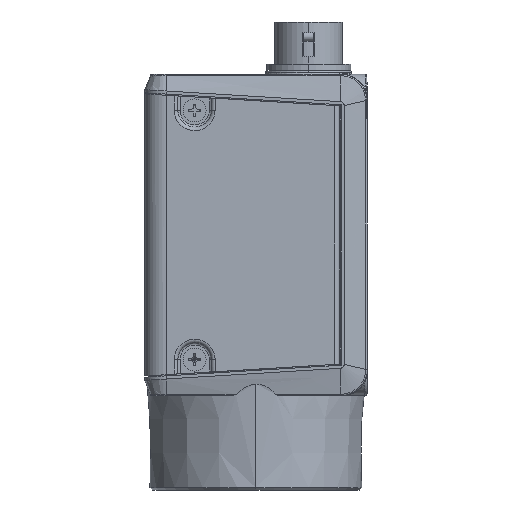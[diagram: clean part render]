
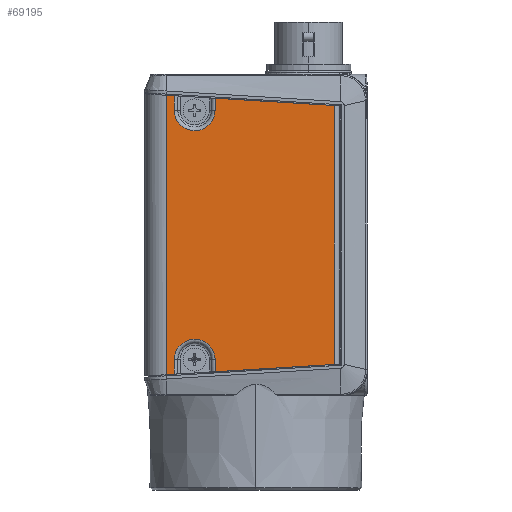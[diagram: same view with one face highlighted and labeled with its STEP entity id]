
A CAD part, left-side view. The second image highlights one B-rep face of the part: STEP entity #69195.
In plain terms, the highlighted planar face has unit normal (-1, 0, 0).
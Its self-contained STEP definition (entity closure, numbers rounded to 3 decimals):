
#13173=CARTESIAN_POINT('',(-14.5,-10.263,
13.575));
#13178=DIRECTION('',(0.,0.,1.));
#13179=VECTOR('',#13178,33.851);
#13180=CARTESIAN_POINT('',(-14.5,-10.263,
13.575));
#13181=LINE('',#13180,#13179);
#13209=CARTESIAN_POINT('',(-14.5,5.33,48.379));
#13320=DIRECTION('',(0.,0.,-1.));
#13321=VECTOR('',#13320,1.579);
#13322=CARTESIAN_POINT('',(-14.5,5.33,48.379));
#13323=LINE('',#13322,#13321);
#13327=CARTESIAN_POINT('',(-14.5,8.,14.2));
#13328=DIRECTION('',(-1.,0.,0.));
#13329=DIRECTION('',(0.,-1.,0.));
#13330=AXIS2_PLACEMENT_3D('',#13327,#13328,#13329);
#13335=CARTESIAN_POINT('',(-14.5,8.,14.2));
#13336=DIRECTION('',(-1.,0.,0.));
#13337=DIRECTION('',(0.,-0.999,0.054));
#13338=AXIS2_PLACEMENT_3D('',#13335,#13336,#13337);
#13343=DIRECTION('',(0.,0.998,-0.061));
#13344=VECTOR('',#13343,1.032);
#13345=CARTESIAN_POINT('',(-14.5,10.67,12.294));
#13346=LINE('',#13345,#13344);
#13350=DIRECTION('',(0.,-0.998,-0.061));
#13351=VECTOR('',#13350,1.032);
#13352=CARTESIAN_POINT('',(-14.5,11.7,
48.769));
#13353=LINE('',#13352,#13351);
#13357=CARTESIAN_POINT('',(-14.5,8.,46.8));
#13358=DIRECTION('',(-1.,0.,0.));
#13359=DIRECTION('',(0.,1.,0.));
#13360=AXIS2_PLACEMENT_3D('',#13357,#13358,#13359);
#13365=CARTESIAN_POINT('',(-14.5,8.,46.8));
#13366=DIRECTION('',(-1.,0.,0.));
#13367=DIRECTION('',(0.,0.999,-0.054));
#13368=AXIS2_PLACEMENT_3D('',#13365,#13366,#13367);
#13373=DIRECTION('',(0.,-0.998,-0.061));
#13374=VECTOR('',#13373,15.622);
#13375=CARTESIAN_POINT('',(-14.5,5.33,48.379));
#13376=LINE('',#13375,#13374);
#13380=DIRECTION('',(0.,0.998,-0.061));
#13381=VECTOR('',#13380,15.622);
#13382=CARTESIAN_POINT('',(-14.5,-10.263,
13.575));
#13383=LINE('',#13382,#13381);
#13387=DIRECTION('',(0.,0.,-1.));
#13388=VECTOR('',#13387,1.579);
#13389=CARTESIAN_POINT('',(-14.5,5.33,14.2));
#13390=LINE('',#13389,#13388);
#13469=CARTESIAN_POINT('',(-14.5,5.33,
12.621));
#13549=CARTESIAN_POINT('',(-14.5,10.67,48.706));
#31934=CARTESIAN_POINT('',(-14.5,11.7,
48.769));
#31939=DIRECTION('',(0.,0.,-1.));
#31940=VECTOR('',#31939,36.537);
#31941=CARTESIAN_POINT('',(-14.5,11.7,
48.769));
#31942=LINE('',#31941,#31940);
#31946=CARTESIAN_POINT('',(-14.5,11.7,
12.231));
#31993=CARTESIAN_POINT('',(-14.5,10.67,12.294));
#32221=DIRECTION('',(0.,0.,1.));
#32222=VECTOR('',#32221,1.906);
#32223=CARTESIAN_POINT('',(-14.5,10.67,12.294));
#32224=LINE('',#32223,#32222);
#37982=DIRECTION('',(0.,0.,1.));
#37983=VECTOR('',#37982,1.906);
#37984=CARTESIAN_POINT('',(-14.5,10.67,46.8));
#37985=LINE('',#37984,#37983);
#50966=VERTEX_POINT('',#31946);
#50969=VERTEX_POINT('',#31934);
#51152=VERTEX_POINT('',#13549);
#51173=VERTEX_POINT('',#13209);
#51174=CARTESIAN_POINT('',(-14.5,5.33,46.8));
#51175=VERTEX_POINT('',#51174);
#51176=CARTESIAN_POINT('',(-14.5,-10.263,
47.425));
#51177=VERTEX_POINT('',#51176);
#51184=VERTEX_POINT('',#13173);
#51203=VERTEX_POINT('',#13469);
#51240=VERTEX_POINT('',#31993);
#51241=CARTESIAN_POINT('',(-14.5,10.67,14.2));
#51242=VERTEX_POINT('',#51241);
#51243=CARTESIAN_POINT('',(-14.5,5.33,14.2));
#51244=VERTEX_POINT('',#51243);
#51245=CARTESIAN_POINT('',(-14.5,5.334,14.345));
#51246=VERTEX_POINT('',#51245);
#51247=CARTESIAN_POINT('',(-14.5,10.67,46.8));
#51248=VERTEX_POINT('',#51247);
#51249=CARTESIAN_POINT('',(-14.5,10.666,46.655));
#51250=VERTEX_POINT('',#51249);
#69163=CARTESIAN_POINT('',(-14.5,14.5,11.7));
#69164=DIRECTION('',(-1.,0.,0.));
#69165=DIRECTION('',(0.,0.,-1.));
#69166=AXIS2_PLACEMENT_3D('',#69163,#69164,#69165);
#69167=PLANE('',#69166);
#69169=ORIENTED_EDGE('',*,*,#69168,.F.);
#69171=ORIENTED_EDGE('',*,*,#69170,.T.);
#69173=ORIENTED_EDGE('',*,*,#69172,.T.);
#69175=ORIENTED_EDGE('',*,*,#69174,.F.);
#69177=ORIENTED_EDGE('',*,*,#69176,.T.);
#69179=ORIENTED_EDGE('',*,*,#69178,.F.);
#69181=ORIENTED_EDGE('',*,*,#69180,.T.);
#69183=ORIENTED_EDGE('',*,*,#69182,.F.);
#69185=ORIENTED_EDGE('',*,*,#69184,.T.);
#69187=ORIENTED_EDGE('',*,*,#69186,.T.);
#69188=ORIENTED_EDGE('',*,*,#69156,.F.);
#69189=ORIENTED_EDGE('',*,*,#68996,.T.);
#69190=ORIENTED_EDGE('',*,*,#68908,.F.);
#69192=ORIENTED_EDGE('',*,*,#69191,.T.);
#69193=EDGE_LOOP('',(#69169,#69171,#69173,#69175,#69177,#69179,#69181,#69183,
#69185,#69187,#69188,#69189,#69190,#69192));
#69194=FACE_OUTER_BOUND('',#69193,.F.);
#69195=ADVANCED_FACE('',(#69194),#69167,.T.);
#13331=CIRCLE('',#13330,2.67);
#13339=CIRCLE('',#13338,2.67);
#13361=CIRCLE('',#13360,2.67);
#13369=CIRCLE('',#13368,2.67);
#68908=EDGE_CURVE('',#51184,#51177,#13181,.T.);
#68996=EDGE_CURVE('',#51173,#51177,#13376,.T.);
#69156=EDGE_CURVE('',#51173,#51175,#13323,.T.);
#69168=EDGE_CURVE('',#51244,#51203,#13390,.T.);
#69170=EDGE_CURVE('',#51244,#51246,#13331,.T.);
#69172=EDGE_CURVE('',#51246,#51242,#13339,.T.);
#69174=EDGE_CURVE('',#51240,#51242,#32224,.T.);
#69176=EDGE_CURVE('',#51240,#50966,#13346,.T.);
#69178=EDGE_CURVE('',#50969,#50966,#31942,.T.);
#69180=EDGE_CURVE('',#50969,#51152,#13353,.T.);
#69182=EDGE_CURVE('',#51248,#51152,#37985,.T.);
#69184=EDGE_CURVE('',#51248,#51250,#13361,.T.);
#69186=EDGE_CURVE('',#51250,#51175,#13369,.T.);
#69191=EDGE_CURVE('',#51184,#51203,#13383,.T.);
